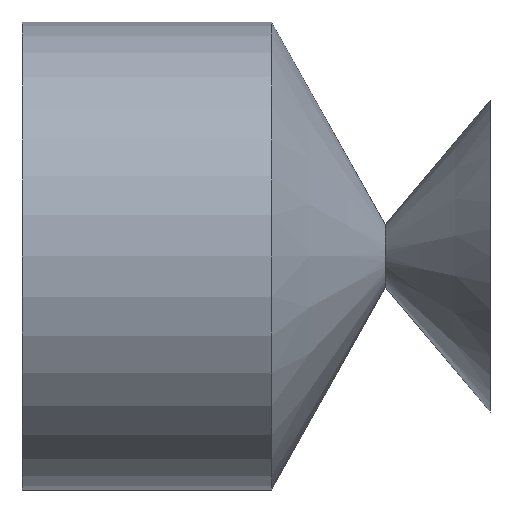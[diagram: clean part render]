
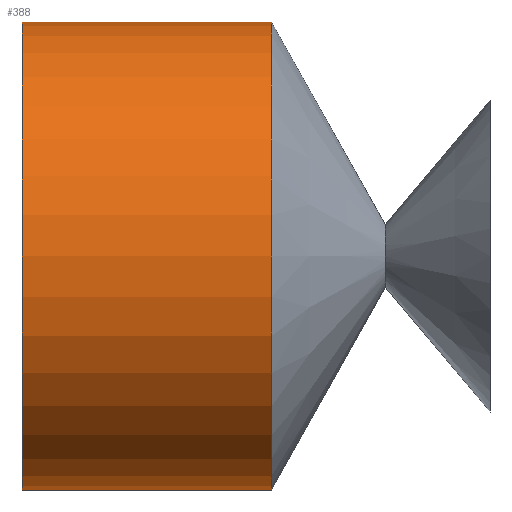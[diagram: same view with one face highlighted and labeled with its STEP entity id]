
A CAD part, left-side view. The second image highlights one B-rep face of the part: STEP entity #388.
In plain terms, the highlighted cylindrical face has radius 7.5 mm (diameter 15 mm), a partial arc.
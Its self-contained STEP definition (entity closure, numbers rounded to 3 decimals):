
#3 = AXIS2_PLACEMENT_3D ( 'NONE', #242, #157, #238 ) ;
#16 = CARTESIAN_POINT ( 'NONE',  ( 0., 0., 7.5 ) ) ;
#57 = CARTESIAN_POINT ( 'NONE',  ( 0., 0., 0. ) ) ;
#62 = CARTESIAN_POINT ( 'NONE',  ( 0., 15., 7.5 ) ) ;
#63 = CIRCLE ( 'NONE', #203, 7.5 ) ;
#66 = VERTEX_POINT ( 'NONE', #335 ) ;
#94 = EDGE_CURVE ( 'NONE', #66, #471, #63, .T. ) ;
#115 = ORIENTED_EDGE ( 'NONE', *, *, #483, .T. ) ;
#125 = FACE_OUTER_BOUND ( 'NONE', #510, .T. ) ;
#138 = DIRECTION ( 'NONE',  ( 0., -1., 0. ) ) ;
#153 = CARTESIAN_POINT ( 'NONE',  ( 0., 15., -7.5 ) ) ;
#157 = DIRECTION ( 'NONE',  ( 0., -1., 0. ) ) ;
#166 = VECTOR ( 'NONE', #230, 1000. ) ;
#170 = AXIS2_PLACEMENT_3D ( 'NONE', #57, #138, #416 ) ;
#178 = EDGE_CURVE ( 'NONE', #370, #66, #426, .T. ) ;
#179 = DIRECTION ( 'NONE',  ( 0., 0., -1. ) ) ;
#203 = AXIS2_PLACEMENT_3D ( 'NONE', #458, #333, #179 ) ;
#230 = DIRECTION ( 'NONE',  ( 0., -1., 0. ) ) ;
#235 = CIRCLE ( 'NONE', #3, 7.5 ) ;
#238 = DIRECTION ( 'NONE',  ( 0., 0., -1. ) ) ;
#242 = CARTESIAN_POINT ( 'NONE',  ( 0., 15., 0. ) ) ;
#249 = ORIENTED_EDGE ( 'NONE', *, *, #433, .T. ) ;
#333 = DIRECTION ( 'NONE',  ( 0., -1., 0. ) ) ;
#335 = CARTESIAN_POINT ( 'NONE',  ( 0., 7., 7.5 ) ) ;
#348 = VERTEX_POINT ( 'NONE', #153 ) ;
#370 = VERTEX_POINT ( 'NONE', #62 ) ;
#374 = ORIENTED_EDGE ( 'NONE', *, *, #178, .F. ) ;
#388 = ADVANCED_FACE ( 'NONE', ( #125 ), #478, .T. ) ;
#416 = DIRECTION ( 'NONE',  ( 0., 0., -1. ) ) ;
#426 = LINE ( 'NONE', #16, #166 ) ;
#433 = EDGE_CURVE ( 'NONE', #348, #471, #492, .T. ) ;
#458 = CARTESIAN_POINT ( 'NONE',  ( 0., 7., 0. ) ) ;
#471 = VERTEX_POINT ( 'NONE', #484 ) ;
#477 = DIRECTION ( 'NONE',  ( 0., -1., 0. ) ) ;
#478 = CYLINDRICAL_SURFACE ( 'NONE', #170, 7.5 ) ;
#483 = EDGE_CURVE ( 'NONE', #370, #348, #235, .T. ) ;
#484 = CARTESIAN_POINT ( 'NONE',  ( 0., 7., -7.5 ) ) ;
#492 = LINE ( 'NONE', #523, #507 ) ;
#504 = ORIENTED_EDGE ( 'NONE', *, *, #94, .F. ) ;
#507 = VECTOR ( 'NONE', #477, 1000. ) ;
#510 = EDGE_LOOP ( 'NONE', ( #374, #115, #249, #504 ) ) ;
#523 = CARTESIAN_POINT ( 'NONE',  ( 0., 0., -7.5 ) ) ;
